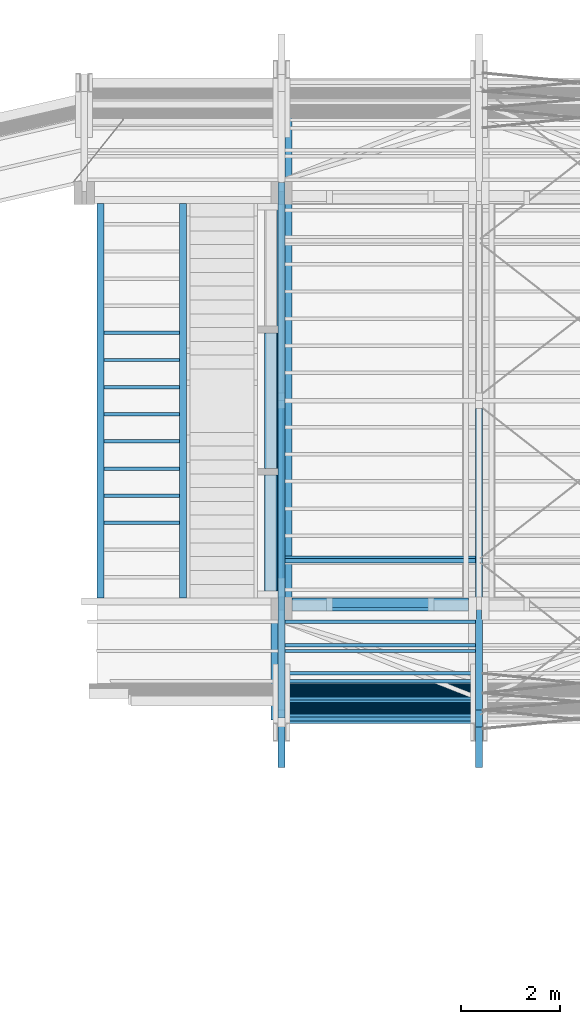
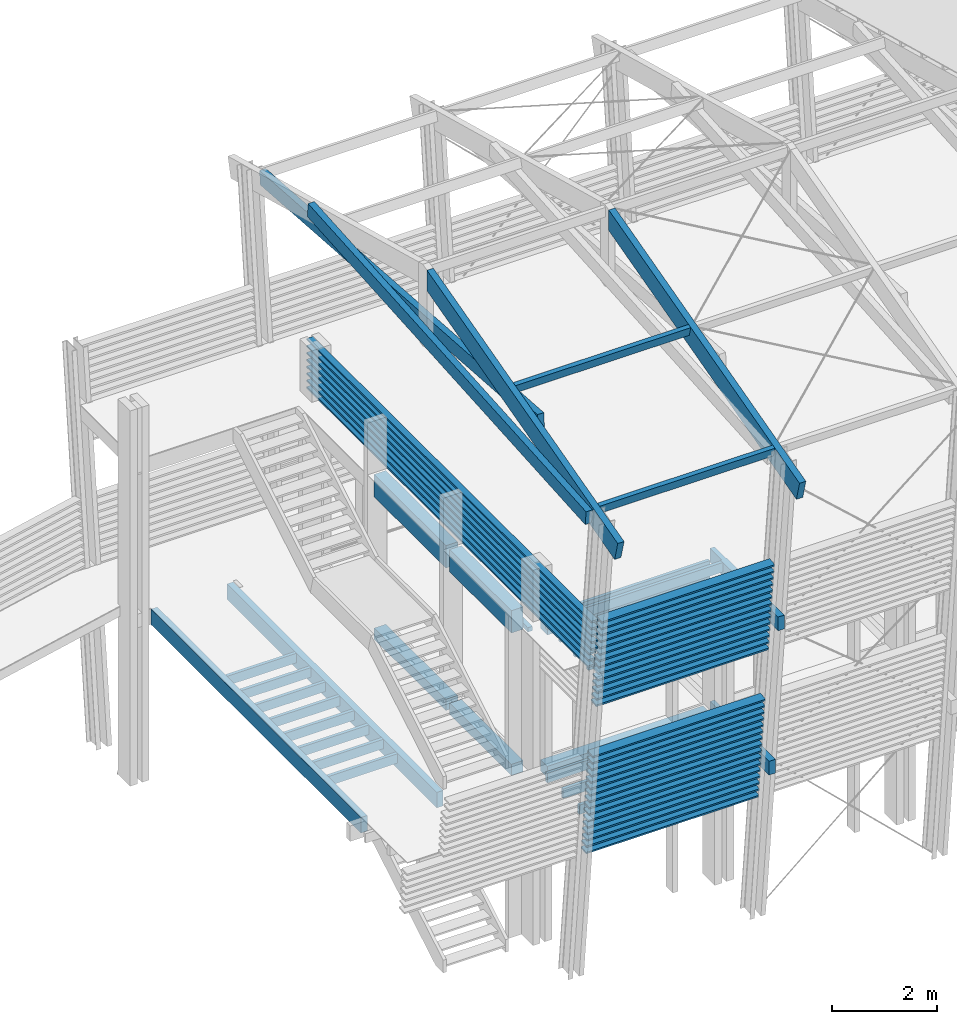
# One storey, part 5 of 48: 71 beams.
"""IFC2X3 building model written with IfcOpenShell, lengths in metres."""

from ifc_helpers import new_model, si_unit, direction, frame, origin_with_axes, place, context, subcontext, project, spatial, faceted_brep, material, element, save


model = new_model("IFC2X3")

# Units and contexts
model_context = context("Model", 3, precision=1e-06, world=origin_with_axes(), true_north=direction((0.0, 1.0, 0.0)))
body_context = subcontext(model_context, "Body", "Model", "MODEL_VIEW")
ifc_project = project(units=[si_unit("LENGTHUNIT", "METRE"), si_unit("AREAUNIT", "SQUARE_METRE"), si_unit("VOLUMEUNIT", "CUBIC_METRE"), si_unit("PLANEANGLEUNIT", "RADIAN")], contexts=[model_context])

# Site, building, storey
site_placement = place(None, origin_with_axes())
site = spatial("IfcSite", under=ifc_project, at=site_placement, CompositionType="ELEMENT")
building_placement = place(site_placement, origin_with_axes())
building = spatial("IfcBuilding", under=site, at=building_placement, Name="Building 1", CompositionType="ELEMENT")
storey_placement = place(building_placement, origin_with_axes())
storey = spatial("IfcBuildingStorey", under=building, at=storey_placement, Name="Storey 1", CompositionType="ELEMENT", Elevation=0.0)

# Beams
ifc_material_1 = material(Name="GL28h")
beam_1_placement = place(storey_placement, frame((21.8897437, -191.6830698, 4.139), z_axis=(0.0, 0.0, 1.0), x_axis=(1.0, 0.0, 0.0)))
element("IfcBeam", 1, at=beam_1_placement, inside=storey, material=ifc_material_1, Name="Solive", context=body_context, shape_type="Brep", body=[
    faceted_brep([(1.53, 0.035, 0.11), (1.53, 0.035, -0.11), (0.0, 0.035, -0.11), (0.0, 0.035, 0.11), (1.53, -0.035, -0.11), (0.0, -0.035, -0.11), (1.53, -0.035, 0.11), (0.0, -0.035, 0.11)], [[[0, 1, 2, 3]], [[1, 4, 5, 2]], [[4, 6, 7, 5]], [[6, 0, 3, 7]], [[1, 0, 6, 4]], [[7, 3, 2, 5]]]),
])
ifc_material_2 = material(Name="Moabi")
beam_2_placement = place(storey_placement, frame((25.4897441, -184.7864885, 8.022), z_axis=(1.0, 0.0, 0.0), x_axis=(0.0, -1.0, 0.0)))
element("IfcBeam", 2, at=beam_2_placement, inside=storey, material=ifc_material_2, Name="garde corp", context=body_context, shape_type="Brep", body=[
    faceted_brep([(10.7403249, -0.02, 0.07), (10.7403249, 0.02, 0.07), (0.0, 0.02, 0.07), (0.0, -0.02, 0.07), (10.7403249, 0.02, -0.07), (0.0, 0.02, -0.07), (10.7403249, -0.02, -0.07), (0.0, -0.02, -0.07)], [[[0, 1, 2, 3]], [[1, 4, 5, 2]], [[4, 6, 7, 5]], [[6, 0, 3, 7]], [[1, 0, 6, 4]], [[7, 3, 2, 5]]]),
])
beam_3_placement = place(storey_placement, frame((25.5597437, -193.6846515, 4.139), z_axis=(0.0, 0.0, 1.0), x_axis=(1.0, 0.0, 0.0)))
element("IfcBeam", 3, at=beam_3_placement, inside=storey, material=ifc_material_1, Name="Solive", context=body_context, shape_type="Brep", body=[
    faceted_brep([(3.86, 0.035, 0.11), (3.86, 0.035, -0.11), (0.0, 0.035, -0.11), (0.0, 0.035, 0.11), (3.86, -0.035, -0.11), (0.0, -0.035, -0.11), (3.86, -0.035, 0.11), (0.0, -0.035, 0.11)], [[[0, 1, 2, 3]], [[1, 4, 5, 2]], [[4, 6, 7, 5]], [[6, 0, 3, 7]], [[1, 0, 6, 4]], [[7, 3, 2, 5]]]),
])
beam_4_placement = place(storey_placement, frame((25.4897441, -184.7864885, 8.182), z_axis=(1.0, 0.0, 0.0), x_axis=(0.0, -1.0, 0.0)))
element("IfcBeam", 4, at=beam_4_placement, inside=storey, material=ifc_material_2, Name="garde corp", context=body_context, shape_type="Brep", body=[
    faceted_brep([(10.7590864, -0.02, 0.07), (10.7590864, 0.02, 0.07), (0.0, 0.02, 0.07), (0.0, -0.02, 0.07), (10.7590864, 0.02, -0.07), (0.0, 0.02, -0.07), (10.7590864, -0.02, -0.07), (0.0, -0.02, -0.07)], [[[0, 1, 2, 3]], [[1, 4, 5, 2]], [[4, 6, 7, 5]], [[6, 0, 3, 7]], [[1, 0, 6, 4]], [[7, 3, 2, 5]]]),
])
beam_5_placement = place(storey_placement, frame((25.2697437, -190.7180698, 4.085), z_axis=(0.0, 0.0, 1.0), x_axis=(0.0, -1.0, 0.0)))
element("IfcBeam", 5, at=beam_5_placement, inside=storey, material=ifc_material_1, Name="Buton", context=body_context, shape_type="Brep", body=[
    faceted_brep([(2.3515817, -0.13, -0.13), (2.3515817, 0.13, -0.13), (2.3515817, 0.13, 0.13), (2.3515817, -0.13, 0.13), (0.0, 0.13, -0.13), (0.0, 0.13, 0.13), (0.0, -0.13, 0.13), (0.0, -0.13, -0.13)], [[[0, 1, 2, 3]], [[4, 5, 2, 1]], [[5, 6, 3, 2]], [[6, 7, 0, 3]], [[7, 4, 1, 0]], [[5, 4, 7, 6]]]),
])
for number, where, z_axis, x_axis, name in (
    (6, (29.3927441, -195.4954586, 7.5554733), (0.0, 0.9945219, 0.1045285), (-1.0, 0.0, 0.0), "garde corp"),
    (7, (29.3927437, -195.5456322, 8.0328439), (0.0, 0.9945219, 0.1045285), (-1.0, 0.0, 0.0), "garde corp"),
):
    element("IfcBeam", number, at=place(storey_placement, frame(where, z_axis=z_axis, x_axis=x_axis)), inside=storey, material=ifc_material_2, Name=name, context=body_context, shape_type="Brep", body=[
        faceted_brep([(3.806, 0.02, -0.1), (3.806, -0.02, -0.1), (0.0, -0.02, -0.1), (0.0, 0.02, -0.1), (3.806, -0.02, 0.1), (0.0, -0.02, 0.1), (3.806, 0.02, 0.1), (0.0, 0.02, 0.1)], [[[0, 1, 2, 3]], [[1, 4, 5, 2]], [[4, 6, 7, 5]], [[6, 0, 3, 7]], [[1, 0, 6, 4]], [[7, 3, 2, 5]]]),
    ])
beam_6_placement = place(storey_placement, frame((25.6997437, -193.4346515, 7.64), z_axis=(0.0, 0.0, 1.0), x_axis=(1.0, 0.0, 0.0)))
element("IfcBeam", 8, at=beam_6_placement, inside=storey, material=ifc_material_1, Name="Rive", context=body_context, shape_type="Brep", body=[
    faceted_brep([(0.0, -0.035, -0.11), (0.0, -0.035, 0.11), (0.0, 0.035, 0.11), (0.0, 0.035, -0.11), (3.58, 0.035, -0.11), (3.58, -0.035, -0.11), (3.58, -0.035, 0.11), (3.58, 0.035, 0.11)], [[[0, 1, 2, 3]], [[0, 3, 4, 5]], [[1, 0, 5, 6]], [[5, 4, 7, 6]], [[3, 2, 7, 4]], [[2, 1, 6, 7]]]),
])
beam_7_placement = place(storey_placement, frame((25.4897441, -184.7864885, 8.982), z_axis=(1.0, 0.0, 0.0), x_axis=(0.0, -1.0, 0.0)))
element("IfcBeam", 9, at=beam_7_placement, inside=storey, material=ifc_material_2, Name="garde corp", context=body_context, shape_type="Brep", body=[
    faceted_brep([(10.8515661, -0.02, 0.07), (10.8515661, 0.02, 0.07), (0.0, 0.02, 0.07), (0.0, -0.02, 0.07), (10.8515661, 0.02, -0.07), (0.0, 0.02, -0.07), (10.8515661, -0.02, -0.07), (0.0, -0.02, -0.07)], [[[0, 1, 2, 3]], [[1, 4, 5, 2]], [[4, 6, 7, 5]], [[6, 0, 3, 7]], [[1, 0, 6, 4]], [[7, 3, 2, 5]]]),
])
beam_8_placement = place(storey_placement, frame((29.3927441, -195.4620095, 7.2372263), z_axis=(0.0, 0.9945219, 0.1045285), x_axis=(-1.0, 0.0, 0.0)))
element("IfcBeam", 10, at=beam_8_placement, inside=storey, material=ifc_material_2, Name="garde corp", context=body_context, shape_type="Brep", body=[
    faceted_brep([(3.806, 0.02, -0.1), (3.806, -0.02, -0.1), (0.0, -0.02, -0.1), (0.0, 0.02, -0.1), (3.806, -0.02, 0.1), (0.0, -0.02, 0.1), (3.806, 0.02, 0.1), (0.0, 0.02, 0.1)], [[[0, 1, 2, 3]], [[1, 4, 5, 2]], [[4, 6, 7, 5]], [[6, 0, 3, 7]], [[1, 0, 6, 4]], [[7, 3, 2, 5]]]),
])
beam_9_placement = place(storey_placement, frame((29.3927439, -195.1442429, 4.2138798), z_axis=(0.0, 0.9945219, 0.1045285), x_axis=(-1.0, 0.0, 0.0)))
element("IfcBeam", 11, at=beam_9_placement, inside=storey, material=ifc_material_2, Name="garde corp", context=body_context, shape_type="Brep", body=[
    faceted_brep([(3.8048051, 0.02, -0.1), (3.8048051, -0.02, -0.1), (0.0, -0.02, -0.1), (0.0, 0.02, -0.1), (3.8048051, -0.02, 0.1), (0.0, -0.02, 0.1), (3.8048051, 0.02, 0.1), (0.0, 0.02, 0.1)], [[[0, 1, 2, 3]], [[1, 4, 5, 2]], [[4, 6, 7, 5]], [[6, 0, 3, 7]], [[1, 0, 6, 4]], [[7, 3, 2, 5]]]),
])
for number, where, z_axis, x_axis, name in (
    (12, (29.3927441, -195.5121831, 7.7145968), (0.0, 0.9945219, 0.1045285), (-1.0, 0.0, 0.0), "garde corp"),
    (13, (29.3927437, -195.6125305, 8.6693379), (0.0, 0.9945219, 0.1045285), (-1.0, 0.0, 0.0), "garde corp"),
    (14, (29.3927441, -195.4452849, 7.0781028), (0.0, 0.9945219, 0.1045285), (-1.0, 0.0, 0.0), "garde corp"),
    (15, (29.3927441, -195.5790813, 8.3510909), (0.0, 0.9945219, 0.1045285), (-1.0, 0.0, 0.0), "garde corp"),
):
    element("IfcBeam", number, at=place(storey_placement, frame(where, z_axis=z_axis, x_axis=x_axis)), inside=storey, material=ifc_material_2, Name=name, context=body_context, shape_type="Brep", body=[
        faceted_brep([(3.806, 0.02, -0.1), (3.806, -0.02, -0.1), (0.0, -0.02, -0.1), (0.0, 0.02, -0.1), (3.806, -0.02, 0.1), (0.0, -0.02, 0.1), (3.806, 0.02, 0.1), (0.0, 0.02, 0.1)], [[[0, 1, 2, 3]], [[1, 4, 5, 2]], [[4, 6, 7, 5]], [[6, 0, 3, 7]], [[1, 0, 6, 4]], [[7, 3, 2, 5]]]),
    ])
for number, where, z_axis, x_axis, name in (
    (16, (29.3927439, -195.2613148, 5.3277443), (0.0, 0.9945219, 0.1045285), (-1.0, 0.0, 0.0), "garde corp"),
    (17, (29.3927439, -195.2445903, 5.1686208), (0.0, 0.9945219, 0.1045285), (-1.0, 0.0, 0.0), "garde corp"),
):
    element("IfcBeam", number, at=place(storey_placement, frame(where, z_axis=z_axis, x_axis=x_axis)), inside=storey, material=ifc_material_2, Name=name, context=body_context, shape_type="Brep", body=[
        faceted_brep([(3.8048055, 0.02, -0.1), (3.8048055, -0.02, -0.1), (0.0, -0.02, -0.1), (0.0, 0.02, -0.1), (3.8048055, -0.02, 0.1), (0.0, -0.02, 0.1), (3.8048055, 0.02, 0.1), (0.0, 0.02, 0.1)], [[[0, 1, 2, 3]], [[1, 4, 5, 2]], [[4, 6, 7, 5]], [[6, 0, 3, 7]], [[1, 0, 6, 4]], [[7, 3, 2, 5]]]),
    ])
beam_10_placement = place(storey_placement, frame((29.3927441, -195.5958059, 8.5102144), z_axis=(0.0, 0.9945219, 0.1045285), x_axis=(-1.0, 0.0, 0.0)))
element("IfcBeam", 18, at=beam_10_placement, inside=storey, material=ifc_material_2, Name="garde corp", context=body_context, shape_type="Brep", body=[
    faceted_brep([(3.806, 0.02, -0.1), (3.806, -0.02, -0.1), (0.0, -0.02, -0.1), (0.0, 0.02, -0.1), (3.806, -0.02, 0.1), (0.0, -0.02, 0.1), (3.806, 0.02, 0.1), (0.0, 0.02, 0.1)], [[[0, 1, 2, 3]], [[1, 4, 5, 2]], [[4, 6, 7, 5]], [[6, 0, 3, 7]], [[1, 0, 6, 4]], [[7, 3, 2, 5]]]),
])
beam_11_placement = place(storey_placement, frame((29.3927439, -195.2780394, 5.4868678), z_axis=(0.0, 0.9945219, 0.1045285), x_axis=(-1.0, 0.0, 0.0)))
element("IfcBeam", 19, at=beam_11_placement, inside=storey, material=ifc_material_2, Name="garde corp", context=body_context, shape_type="Brep", body=[
    faceted_brep([(3.8047069, 0.02, -0.1), (3.8047069, -0.02, -0.1), (0.0, -0.02, -0.1), (0.0, 0.02, -0.1), (3.8047069, -0.02, 0.1), (0.0, -0.02, 0.1), (3.8047071, 0.02, 0.1), (0.0, 0.02, 0.1)], [[[0, 1, 2, 3]], [[1, 4, 5, 2]], [[4, 6, 7, 5]], [[6, 0, 3, 7]], [[1, 0, 6, 4]], [[7, 3, 2, 5]]]),
])
beam_12_placement = place(storey_placement, frame((29.3927439, -195.177692, 4.5321268), z_axis=(0.0, 0.9945219, 0.1045285), x_axis=(-1.0, 0.0, 0.0)))
element("IfcBeam", 20, at=beam_12_placement, inside=storey, material=ifc_material_2, Name="garde corp", context=body_context, shape_type="Brep", body=[
    faceted_brep([(3.8047069, 0.02, -0.1), (3.8047071, -0.02, -0.1), (0.0, -0.02, -0.1), (0.0, 0.02, -0.1), (3.8047069, -0.02, 0.1), (0.0, -0.02, 0.1), (3.8047071, 0.02, 0.1), (0.0, 0.02, 0.1)], [[[0, 1, 2, 3]], [[1, 4, 5, 2]], [[4, 6, 7, 5]], [[6, 0, 3, 7]], [[1, 0, 6, 4]], [[7, 3, 2, 5]]]),
])
beam_13_placement = place(storey_placement, frame((29.3927439, -195.1609675, 4.3730033), z_axis=(0.0, 0.9945219, 0.1045285), x_axis=(-1.0, 0.0, 0.0)))
element("IfcBeam", 21, at=beam_13_placement, inside=storey, material=ifc_material_2, Name="garde corp", context=body_context, shape_type="Brep", body=[
    faceted_brep([(3.8048051, 0.02, -0.1), (3.8048051, -0.02, -0.1), (0.0, -0.02, -0.1), (0.0, 0.02, -0.1), (3.8048051, -0.02, 0.1), (0.0, -0.02, 0.1), (3.8048051, 0.02, 0.1), (0.0, 0.02, 0.1)], [[[0, 1, 2, 3]], [[1, 4, 5, 2]], [[4, 6, 7, 5]], [[6, 0, 3, 7]], [[1, 0, 6, 4]], [[7, 3, 2, 5]]]),
])
beam_14_placement = place(storey_placement, frame((29.3927441, -195.5289077, 7.8737203), z_axis=(0.0, 0.9945219, 0.1045285), x_axis=(-1.0, 0.0, 0.0)))
element("IfcBeam", 22, at=beam_14_placement, inside=storey, material=ifc_material_2, Name="garde corp", context=body_context, shape_type="Brep", body=[
    faceted_brep([(3.806, 0.02, -0.1), (3.806, -0.02, -0.1), (0.0, -0.02, -0.1), (0.0, 0.02, -0.1), (3.806, -0.02, 0.1), (0.0, -0.02, 0.1), (3.806, 0.02, 0.1), (0.0, 0.02, 0.1)], [[[0, 1, 2, 3]], [[1, 4, 5, 2]], [[4, 6, 7, 5]], [[6, 0, 3, 7]], [[1, 0, 6, 4]], [[7, 3, 2, 5]]]),
])
beam_15_placement = place(storey_placement, frame((29.3927439, -195.1944166, 4.6912503), z_axis=(0.0, 0.9945219, 0.1045285), x_axis=(-1.0, 0.0, 0.0)))
element("IfcBeam", 23, at=beam_15_placement, inside=storey, material=ifc_material_2, Name="garde corp", context=body_context, shape_type="Brep", body=[
    faceted_brep([(3.8047069, 0.02, -0.1), (3.8047071, -0.02, -0.1), (0.0, -0.02, -0.1), (0.0, 0.02, -0.1), (3.8047071, -0.02, 0.1), (0.0, -0.02, 0.1), (3.8047071, 0.02, 0.1), (0.0, 0.02, 0.1)], [[[0, 1, 2, 3]], [[1, 4, 5, 2]], [[4, 6, 7, 5]], [[6, 0, 3, 7]], [[1, 0, 6, 4]], [[7, 3, 2, 5]]]),
])
beam_16_placement = place(storey_placement, frame((29.3927439, -195.2947639, 5.6459913), z_axis=(0.0, 0.9945219, 0.1045285), x_axis=(-1.0, 0.0, 0.0)))
element("IfcBeam", 24, at=beam_16_placement, inside=storey, material=ifc_material_2, Name="garde corp", context=body_context, shape_type="Brep", body=[
    faceted_brep([(3.8048055, 0.02, -0.1), (3.8048055, -0.02, -0.1), (0.0, -0.02, -0.1), (0.0, 0.02, -0.1), (3.8048055, -0.02, 0.1), (0.0, -0.02, 0.1), (3.8048055, 0.02, 0.1), (0.0, 0.02, 0.1)], [[[0, 1, 2, 3]], [[1, 4, 5, 2]], [[4, 6, 7, 5]], [[6, 0, 3, 7]], [[1, 0, 6, 4]], [[7, 3, 2, 5]]]),
])
beam_17_placement = place(storey_placement, frame((29.3927439, -195.0773447, 3.5773858), z_axis=(0.0, 0.9945219, 0.1045285), x_axis=(-1.0, 0.0, 0.0)))
element("IfcBeam", 25, at=beam_17_placement, inside=storey, material=ifc_material_2, Name="garde corp", context=body_context, shape_type="Brep", body=[
    faceted_brep([(3.8047071, 0.02, -0.1), (3.8047071, -0.02, -0.1), (0.0, -0.02, -0.1), (0.0, 0.02, -0.1), (3.8047071, -0.02, 0.1), (0.0, -0.02, 0.1), (3.8047071, 0.02, 0.1), (0.0, 0.02, 0.1)], [[[0, 1, 2, 3]], [[1, 4, 5, 2]], [[4, 6, 7, 5]], [[6, 0, 3, 7]], [[1, 0, 6, 4]], [[7, 3, 2, 5]]]),
])
beam_18_placement = place(storey_placement, frame((29.3927439, -195.0606202, 3.4182623), z_axis=(0.0, 0.9945219, 0.1045285), x_axis=(-1.0, 0.0, 0.0)))
element("IfcBeam", 26, at=beam_18_placement, inside=storey, material=ifc_material_2, Name="garde corp", context=body_context, shape_type="Brep", body=[
    faceted_brep([(3.8047069, 0.02, -0.1), (3.8047069, -0.02, -0.1), (0.0, -0.02, -0.1), (0.0, 0.02, -0.1), (3.8047069, -0.02, 0.1), (0.0, -0.02, 0.1), (3.8047071, 0.02, 0.1), (0.0, 0.02, 0.1)], [[[0, 1, 2, 3]], [[1, 4, 5, 2]], [[4, 6, 7, 5]], [[6, 0, 3, 7]], [[1, 0, 6, 4]], [[7, 3, 2, 5]]]),
])
for number, where, z_axis, x_axis, name in (
    (27, (29.3927441, -195.5623568, 8.1919674), (0.0, 0.9945219, 0.1045285), (-1.0, 0.0, 0.0), "garde corp"),
    (28, (29.3927441, -195.478734, 7.3963498), (0.0, 0.9945219, 0.1045285), (-1.0, 0.0, 0.0), "garde corp"),
    (29, (29.3927441, -195.629255, 8.8284614), (0.0, 0.9945219, 0.1045285), (-1.0, 0.0, 0.0), "garde corp"),
):
    element("IfcBeam", number, at=place(storey_placement, frame(where, z_axis=z_axis, x_axis=x_axis)), inside=storey, material=ifc_material_2, Name=name, context=body_context, shape_type="Brep", body=[
        faceted_brep([(3.806, 0.02, -0.1), (3.806, -0.02, -0.1), (0.0, -0.02, -0.1), (0.0, 0.02, -0.1), (3.806, -0.02, 0.1), (0.0, -0.02, 0.1), (3.806, 0.02, 0.1), (0.0, 0.02, 0.1)], [[[0, 1, 2, 3]], [[1, 4, 5, 2]], [[4, 6, 7, 5]], [[6, 0, 3, 7]], [[1, 0, 6, 4]], [[7, 3, 2, 5]]]),
    ])
beam_19_placement = place(storey_placement, frame((29.3927439, -195.2111412, 4.8503738), z_axis=(0.0, 0.9945219, 0.1045285), x_axis=(-1.0, 0.0, 0.0)))
element("IfcBeam", 30, at=beam_19_placement, inside=storey, material=ifc_material_2, Name="garde corp", context=body_context, shape_type="Brep", body=[
    faceted_brep([(3.8048055, 0.02, -0.1), (3.8048055, -0.02, -0.1), (0.0, -0.02, -0.1), (0.0, 0.02, -0.1), (3.8048055, -0.02, 0.1), (0.0, -0.02, 0.1), (3.8048055, 0.02, 0.1), (0.0, 0.02, 0.1)], [[[0, 1, 2, 3]], [[1, 4, 5, 2]], [[4, 6, 7, 5]], [[6, 0, 3, 7]], [[1, 0, 6, 4]], [[7, 3, 2, 5]]]),
])
beam_20_placement = place(storey_placement, frame((29.3927437, -195.6459796, 8.9875849), z_axis=(0.0, 0.9945219, 0.1045285), x_axis=(-1.0, 0.0, 0.0)))
element("IfcBeam", 31, at=beam_20_placement, inside=storey, material=ifc_material_2, Name="garde corp", context=body_context, shape_type="Brep", body=[
    faceted_brep([(3.806, 0.02, -0.1), (3.806, -0.02, -0.1), (0.0, -0.02, -0.1), (0.0, 0.02, -0.1), (3.806, -0.02, 0.1), (0.0, -0.02, 0.1), (3.806, 0.02, 0.1), (0.0, 0.02, 0.1)], [[[0, 1, 2, 3]], [[1, 4, 5, 2]], [[4, 6, 7, 5]], [[6, 0, 3, 7]], [[1, 0, 6, 4]], [[7, 3, 2, 5]]]),
])
beam_21_placement = place(storey_placement, frame((29.3927439, -195.0438956, 3.2591388), z_axis=(0.0, 0.9945219, 0.1045285), x_axis=(-1.0, 0.0, 0.0)))
element("IfcBeam", 32, at=beam_21_placement, inside=storey, material=ifc_material_2, Name="garde corp", context=body_context, shape_type="Brep", body=[
    faceted_brep([(3.8048051, 0.02, -0.1), (3.8048051, -0.02, -0.1), (0.0, -0.02, -0.1), (0.0, 0.02, -0.1), (3.8048051, -0.02, 0.1), (0.0, -0.02, 0.1), (3.8048051, 0.02, 0.1), (0.0, 0.02, 0.1)], [[[0, 1, 2, 3]], [[1, 4, 5, 2]], [[4, 6, 7, 5]], [[6, 0, 3, 7]], [[1, 0, 6, 4]], [[7, 3, 2, 5]]]),
])
beam_22_placement = place(storey_placement, frame((29.3927441, -195.4285604, 6.9189793), z_axis=(0.0, 0.9945219, 0.1045285), x_axis=(-1.0, 0.0, 0.0)))
element("IfcBeam", 33, at=beam_22_placement, inside=storey, material=ifc_material_2, Name="garde corp", context=body_context, shape_type="Brep", body=[
    faceted_brep([(3.806, 0.02, -0.1), (3.806, -0.02, -0.1), (0.0, -0.02, -0.1), (0.0, 0.02, -0.1), (3.806, -0.02, 0.1), (0.0, -0.02, 0.1), (3.806, 0.02, 0.1), (0.0, 0.02, 0.1)], [[[0, 1, 2, 3]], [[1, 4, 5, 2]], [[4, 6, 7, 5]], [[6, 0, 3, 7]], [[1, 0, 6, 4]], [[7, 3, 2, 5]]]),
])
beam_23_placement = place(storey_placement, frame((29.3927439, -195.1275184, 4.0547563), z_axis=(0.0, 0.9945219, 0.1045285), x_axis=(-1.0, 0.0, 0.0)))
element("IfcBeam", 34, at=beam_23_placement, inside=storey, material=ifc_material_2, Name="garde corp", context=body_context, shape_type="Brep", body=[
    faceted_brep([(3.8048051, 0.02, -0.1), (3.8048051, -0.02, -0.1), (0.0, -0.02, -0.1), (0.0, 0.02, -0.1), (3.8048051, -0.02, 0.1), (0.0, -0.02, 0.1), (3.8048051, 0.02, 0.1), (0.0, 0.02, 0.1)], [[[0, 1, 2, 3]], [[1, 4, 5, 2]], [[4, 6, 7, 5]], [[6, 0, 3, 7]], [[1, 0, 6, 4]], [[7, 3, 2, 5]]]),
])
for number, where, z_axis, x_axis, name in (
    (35, (29.3927439, -195.1107938, 3.8956328), (0.0, 0.9945219, 0.1045285), (-1.0, 0.0, 0.0), "garde corp"),
    (36, (29.3927439, -195.0940693, 3.7365093), (0.0, 0.9945219, 0.1045285), (-1.0, 0.0, 0.0), "garde corp"),
):
    element("IfcBeam", number, at=place(storey_placement, frame(where, z_axis=z_axis, x_axis=x_axis)), inside=storey, material=ifc_material_2, Name=name, context=body_context, shape_type="Brep", body=[
        faceted_brep([(3.8047069, 0.02, -0.1), (3.8047071, -0.02, -0.1), (0.0, -0.02, -0.1), (0.0, 0.02, -0.1), (3.8047071, -0.02, 0.1), (0.0, -0.02, 0.1), (3.8047071, 0.02, 0.1), (0.0, 0.02, 0.1)], [[[0, 1, 2, 3]], [[1, 4, 5, 2]], [[4, 6, 7, 5]], [[6, 0, 3, 7]], [[1, 0, 6, 4]], [[7, 3, 2, 5]]]),
    ])
beam_24_placement = place(storey_placement, frame((29.3927439, -195.2278657, 5.0094973), z_axis=(0.0, 0.9945219, 0.1045285), x_axis=(-1.0, 0.0, 0.0)))
element("IfcBeam", 37, at=beam_24_placement, inside=storey, material=ifc_material_2, Name="garde corp", context=body_context, shape_type="Brep", body=[
    faceted_brep([(3.8047069, 0.02, -0.1), (3.8047071, -0.02, -0.1), (0.0, -0.02, -0.1), (0.0, 0.02, -0.1), (3.8047069, -0.02, 0.1), (0.0, -0.02, 0.1), (3.8047071, 0.02, 0.1), (0.0, 0.02, 0.1)], [[[0, 1, 2, 3]], [[1, 4, 5, 2]], [[4, 6, 7, 5]], [[6, 0, 3, 7]], [[1, 0, 6, 4]], [[7, 3, 2, 5]]]),
])
beam_25_placement = place(storey_placement, frame((25.5598389, -194.7346515, 7.699), z_axis=(0.0, 0.0, 1.0), x_axis=(1.0, 0.0, 0.0)))
element("IfcBeam", 38, at=beam_25_placement, inside=storey, material=ifc_material_1, Name="Solive", context=body_context, shape_type="Brep", body=[
    faceted_brep([(3.8598092, 0.035, 0.11), (3.8598092, 0.035, -0.11), (0.0, 0.035, -0.11), (0.0, 0.035, 0.11), (3.8598092, -0.035, -0.11), (0.0, -0.035, -0.11), (3.8598092, -0.035, 0.11), (0.0, -0.035, 0.11)], [[[0, 1, 2, 3]], [[1, 4, 5, 2]], [[4, 6, 7, 5]], [[6, 0, 3, 7]], [[1, 0, 6, 4]], [[7, 3, 2, 5]]]),
])
beam_26_placement = place(storey_placement, frame((25.5597437, -193.6846515, 7.699), z_axis=(0.0, 0.0, 1.0), x_axis=(1.0, 0.0, 0.0)))
element("IfcBeam", 39, at=beam_26_placement, inside=storey, material=ifc_material_1, Name="Solive", context=body_context, shape_type="Brep", body=[
    faceted_brep([(3.8599996, -0.035, -0.11), (3.8599996, 0.035, -0.11), (3.8599996, 0.035, 0.11), (3.8599996, -0.035, 0.11), (0.0, 0.035, -0.11), (0.0, 0.035, 0.11), (0.0, -0.035, -0.11), (0.0, -0.035, 0.11)], [[[0, 1, 2, 3]], [[2, 1, 4, 5]], [[1, 0, 6, 4]], [[0, 3, 7, 6]], [[3, 2, 5, 7]], [[7, 5, 4, 6]]]),
])
beam_27_placement = place(storey_placement, frame((25.5598393, -195.2446515, 7.699), z_axis=(0.0, 0.0, 1.0), x_axis=(1.0, 0.0, 0.0)))
element("IfcBeam", 40, at=beam_27_placement, inside=storey, material=ifc_material_1, Name="Solive", context=body_context, shape_type="Brep", body=[
    faceted_brep([(3.8598092, 0.035, 0.11), (3.8598092, 0.035, -0.11), (0.0, 0.035, -0.11), (0.0, 0.035, 0.11), (3.8598084, -0.035, -0.11), (0.0, -0.035, -0.11), (3.8598084, -0.035, 0.11), (0.0, -0.035, 0.11)], [[[0, 1, 2, 3]], [[1, 4, 5, 2]], [[4, 6, 7, 5]], [[6, 0, 3, 7]], [[1, 0, 6, 4]], [[7, 3, 2, 5]]]),
])
beam_28_placement = place(storey_placement, frame((25.5598393, -194.1646515, 7.699), z_axis=(0.0, 0.0, 1.0), x_axis=(1.0, 0.0, 0.0)))
element("IfcBeam", 41, at=beam_28_placement, inside=storey, material=ifc_material_1, Name="Solive", context=body_context, shape_type="Brep", body=[
    faceted_brep([(3.8598092, 0.035, 0.11), (3.8598092, 0.035, -0.11), (0.0, 0.035, -0.11), (0.0, 0.035, 0.11), (3.8598092, -0.035, -0.11), (0.0, -0.035, -0.11), (3.8598092, -0.035, 0.11), (0.0, -0.035, 0.11)], [[[0, 1, 2, 3]], [[1, 4, 5, 2]], [[4, 6, 7, 5]], [[6, 0, 3, 7]], [[1, 0, 6, 4]], [[7, 3, 2, 5]]]),
])
beam_29_placement = place(storey_placement, frame((25.4897441, -184.7864885, 8.502), z_axis=(1.0, 0.0, 0.0), x_axis=(0.0, -1.0, 0.0)))
element("IfcBeam", 42, at=beam_29_placement, inside=storey, material=ifc_material_2, Name="garde corp", context=body_context, shape_type="Brep", body=[
    faceted_brep([(10.8515661, -0.02, 0.07), (10.8515661, 0.02, 0.07), (0.0, 0.02, 0.07), (0.0, -0.02, 0.07), (10.8515661, 0.02, -0.07), (0.0, 0.02, -0.07), (10.8515661, -0.02, -0.07), (0.0, -0.02, -0.07)], [[[0, 1, 2, 3]], [[1, 4, 5, 2]], [[4, 6, 7, 5]], [[6, 0, 3, 7]], [[1, 0, 6, 4]], [[7, 3, 2, 5]]]),
])
beam_30_placement = place(storey_placement, frame((25.2697437, -190.7180698, 7.53), z_axis=(0.0, 0.0, 1.0), x_axis=(0.0, -1.0, 0.0)))
element("IfcBeam", 43, at=beam_30_placement, inside=storey, material=ifc_material_1, Name="Buton", context=body_context, shape_type="Brep", body=[
    faceted_brep([(2.3515817, -0.13, 0.26), (2.3515817, -0.13, -0.26), (2.3515817, 0.13, -0.26), (2.3515817, 0.13, 0.26), (0.0, 0.13, -0.26), (0.0, 0.13, 0.26), (0.0, -0.13, 0.26), (0.0, -0.13, -0.26)], [[[0, 1, 2, 3]], [[4, 5, 3, 2]], [[5, 6, 0, 3]], [[6, 7, 1, 0]], [[7, 4, 2, 1]], [[4, 7, 6, 5]]]),
])
beam_31_placement = place(storey_placement, frame((25.2697437, -187.8380698, 7.53), z_axis=(0.0, 0.0, 1.0), x_axis=(0.0, -1.0, 0.0)))
element("IfcBeam", 44, at=beam_31_placement, inside=storey, material=ifc_material_1, Name="Buton", context=body_context, shape_type="Brep", body=[
    faceted_brep([(2.74, -0.13, -0.26), (2.74, 0.13, -0.26), (2.74, 0.13, 0.26), (2.74, -0.13, 0.26), (0.0, 0.13, 0.26), (0.0, -0.13, 0.26), (0.0, 0.13, -0.26), (0.0, -0.13, -0.26)], [[[0, 1, 2, 3]], [[3, 2, 4, 5]], [[2, 1, 6, 4]], [[5, 4, 6, 7]], [[1, 0, 7, 6]], [[0, 3, 5, 7]]]),
])
for number, where, z_axis, x_axis in (
    (45, (25.5597433, -195.6333854, 11.5757268), (0.0, -0.258819, 0.9659258), (1.0, 0.0, 0.0)),
    (46, (25.5597433, -192.4247592, 12.4354756), (0.0, -0.258819, 0.9659258), (1.0, 0.0, 0.0)),
):
    element("IfcBeam", number, at=place(storey_placement, frame(where, z_axis=z_axis, x_axis=x_axis)), inside=storey, material=ifc_material_1, Name="Buton", context=body_context, shape_type="Brep", body=[
        faceted_brep([(3.8600004, -0.045, 0.11), (3.8600004, 0.045, 0.11), (0.0, 0.045, 0.11), (0.0, -0.045, 0.11), (3.8600004, 0.045, -0.11), (0.0, 0.045, -0.11), (3.8600004, -0.045, -0.11), (0.0, -0.045, -0.11)], [[[0, 1, 2, 3]], [[1, 4, 5, 2]], [[4, 6, 7, 5]], [[6, 0, 3, 7]], [[1, 0, 6, 4]], [[7, 3, 2, 5]]]),
    ])
beam_32_placement = place(storey_placement, frame((21.8897437, -187.8330698, 4.139), z_axis=(0.0, 0.0, 1.0), x_axis=(1.0, 0.0, 0.0)))
element("IfcBeam", 47, at=beam_32_placement, inside=storey, material=ifc_material_1, Name="Solive", context=body_context, shape_type="Brep", body=[
    faceted_brep([(1.53, 0.035, 0.11), (1.53, 0.035, -0.11), (0.0, 0.035, -0.11), (0.0, 0.035, 0.11), (1.53, -0.035, -0.11), (0.0, -0.035, -0.11), (1.53, -0.035, 0.11), (0.0, -0.035, 0.11)], [[[0, 1, 2, 3]], [[1, 4, 5, 2]], [[4, 6, 7, 5]], [[6, 0, 3, 7]], [[1, 0, 6, 4]], [[7, 3, 2, 5]]]),
])
for number, where, z_axis, x_axis in (
    (48, (25.5597437, -194.898689, 4.139), (0.0, 0.0, 1.0), (1.0, 0.0, 0.0)),
    (49, (25.5597437, -194.2816702, 4.139), (0.0, 0.0, 1.0), (1.0, 0.0, 0.0)),
):
    element("IfcBeam", number, at=place(storey_placement, frame(where, z_axis=z_axis, x_axis=x_axis)), inside=storey, material=ifc_material_1, Name="Solive", context=body_context, shape_type="Brep", body=[
        faceted_brep([(3.86, 0.035, 0.11), (3.86, 0.035, -0.11), (0.0, 0.035, -0.11), (0.0, 0.035, 0.11), (3.86, -0.035, -0.11), (0.0, -0.035, -0.11), (3.86, -0.035, 0.11), (0.0, -0.035, 0.11)], [[[0, 1, 2, 3]], [[1, 4, 5, 2]], [[4, 6, 7, 5]], [[6, 0, 3, 7]], [[1, 0, 6, 4]], [[7, 3, 2, 5]]]),
    ])
beam_33_placement = place(storey_placement, frame((25.4697437, -189.2065705, 7.4500014), z_axis=(0.0, -0.0299865, 0.9995503), x_axis=(0.0, -0.9995503, -0.0299865)))
element("IfcBeam", 50, at=beam_33_placement, inside=storey, material=ifc_material_1, Name="Sous-glace", context=body_context, shape_type="Brep", body=[
    faceted_brep([(0.0, -0.05, 0.05), (0.003, -0.05, -0.05), (4.006382, -0.05, -0.05), (4.003382, -0.05, 0.05), (4.003382, 0.05, 0.05), (0.0, 0.05, 0.05), (0.003, 0.05, -0.05), (4.006382, 0.05, -0.05)], [[[0, 1, 2, 3]], [[3, 4, 5, 0]], [[6, 5, 4, 7]], [[1, 6, 7, 2]], [[1, 0, 5, 6]], [[2, 7, 4, 3]]]),
])
beam_34_placement = place(storey_placement, frame((25.6297437, -182.7509358, 11.4619485), z_axis=(0.0, 0.070184, 0.9975341), x_axis=(0.0, -0.9975341, 0.070184)))
element("IfcBeam", 51, at=beam_34_placement, inside=storey, material=ifc_material_1, Name="Entrait", context=body_context, shape_type="Brep", body=[
    faceted_brep([(0.0, 0.07, 0.16), (0.0110373, 0.07, -0.16), (0.0110373, -0.07, -0.16), (0.0, -0.07, 0.16), (10.6243711, 0.07, -0.16), (10.6243711, -0.07, -0.16), (10.6243711, 0.07, 0.16), (10.6243711, -0.07, 0.16)], [[[0, 1, 2, 3]], [[2, 1, 4, 5]], [[1, 0, 6, 4]], [[5, 4, 6, 7]], [[3, 2, 5, 7]], [[0, 3, 7, 6]]]),
])
beam_35_placement = place(storey_placement, frame((21.8897437, -191.1330698, 4.139), z_axis=(0.0, 0.0, 1.0), x_axis=(1.0, 0.0, 0.0)))
element("IfcBeam", 52, at=beam_35_placement, inside=storey, material=ifc_material_1, Name="Solive", context=body_context, shape_type="Brep", body=[
    faceted_brep([(1.53, 0.035, 0.11), (1.53, 0.035, -0.11), (0.0, 0.035, -0.11), (0.0, 0.035, 0.11), (1.53, -0.035, -0.11), (0.0, -0.035, -0.11), (1.53, -0.035, 0.11), (0.0, -0.035, 0.11)], [[[0, 1, 2, 3]], [[1, 4, 5, 2]], [[4, 6, 7, 5]], [[6, 0, 3, 7]], [[1, 0, 6, 4]], [[7, 3, 2, 5]]]),
])
beam_36_placement = place(storey_placement, frame((29.4897437, -196.5806087, 11.197686), z_axis=(0.0, -0.258819, 0.9659258), x_axis=(0.0, 0.9659258, 0.258819)))
element("IfcBeam", 53, at=beam_36_placement, inside=storey, material=ifc_material_1, Name="Arbalétrier", context=body_context, shape_type="Brep", body=[
    faceted_brep([(7.4053414, 0.07, -0.23), (7.5285981, 0.07, 0.23), (7.5285981, -0.07, 0.23), (7.4053414, -0.07, -0.23), (0.0, 0.07, 0.23), (0.0, -0.07, 0.23), (0.0, 0.07, -0.23), (0.0, -0.07, -0.23)], [[[0, 1, 2, 3]], [[2, 1, 4, 5]], [[1, 0, 6, 4]], [[0, 3, 7, 6]], [[3, 2, 5, 7]], [[6, 7, 5, 4]]]),
])
beam_37_placement = place(storey_placement, frame((29.4897437, -193.1896515, 4.089), z_axis=(0.0, 0.0, 1.0), x_axis=(0.0, -1.0, 0.0)))
element("IfcBeam", 54, at=beam_37_placement, inside=storey, material=ifc_material_1, Name="Sommier Coursive", context=body_context, shape_type="Brep", body=[
    faceted_brep([(0.0, 0.05, 0.16), (0.44, 0.05, 0.16), (0.44, 0.05, -0.16), (0.0, 0.05, -0.16), (0.44, 0.07, 0.16), (0.44, 0.07, -0.16), (0.0, -0.05, 0.16), (0.44, -0.05, 0.16), (0.44, -0.07, 0.16), (2.2900003, -0.07, 0.16), (2.2900003, 0.07, 0.16), (0.0, -0.05, -0.16), (0.44, -0.05, -0.16), (0.44, -0.07, -0.16), (2.2900003, 0.07, -0.16), (2.2900003, -0.07, -0.16)], [[[0, 1, 2, 3]], [[1, 4, 5, 2]], [[4, 1, 0, 6, 7, 8, 9, 10]], [[0, 3, 11, 6]], [[11, 12, 7, 6]], [[12, 13, 8, 7]], [[2, 5, 14, 15, 13, 12, 11, 3]], [[8, 13, 15, 9]], [[5, 4, 10, 14]], [[10, 9, 15, 14]]]),
])
beam_38_placement = place(storey_placement, frame((25.4897437, -196.5806087, 11.197686), z_axis=(0.0, -0.258819, 0.9659258), x_axis=(0.0, 0.9659258, 0.258819)))
element("IfcBeam", 55, at=beam_38_placement, inside=storey, material=ifc_material_1, Name="Arbalétrier", context=body_context, shape_type="Brep", body=[
    faceted_brep([(7.4053414, 0.07, -0.23), (7.5285981, 0.07, 0.23), (7.5285981, -0.07, 0.23), (7.4053414, -0.07, -0.23), (0.0, 0.07, 0.23), (0.0, -0.07, 0.23), (0.0, 0.07, -0.23), (0.0, -0.07, -0.23)], [[[0, 1, 2, 3]], [[2, 1, 4, 5]], [[1, 0, 6, 4]], [[0, 3, 7, 6]], [[3, 2, 5, 7]], [[6, 7, 5, 4]]]),
])
beam_39_placement = place(storey_placement, frame((21.8197437, -185.2064881, 4.069), z_axis=(0.0, 0.0, 1.0), x_axis=(0.0, -1.0, 0.0)))
element("IfcBeam", 56, at=beam_39_placement, inside=storey, material=ifc_material_1, Name="Sommier", context=body_context, shape_type="Brep", body=[
    faceted_brep([(8.0031634, 0.07, 0.18), (8.0031634, 0.07, -0.18), (0.0, 0.07, -0.18), (0.0, 0.07, 0.18), (8.0031634, -0.07, -0.18), (0.0, -0.07, -0.18), (8.0031634, -0.07, 0.18), (0.0, -0.07, 0.18)], [[[0, 1, 2, 3]], [[1, 4, 5, 2]], [[4, 6, 7, 5]], [[6, 0, 3, 7]], [[1, 0, 6, 4]], [[7, 3, 2, 5]]]),
])
beam_40_placement = place(storey_placement, frame((29.4897437, -193.1896515, 7.649), z_axis=(0.0, 0.0, 1.0), x_axis=(0.0, -1.0, 0.0)))
element("IfcBeam", 57, at=beam_40_placement, inside=storey, material=ifc_material_1, Name="Sommier Coursive", context=body_context, shape_type="Brep", body=[
    faceted_brep([(0.0, -0.05, -0.16), (0.44, -0.05, -0.16), (0.44, -0.05, 0.16), (0.0, -0.05, 0.16), (0.44, -0.07, -0.16), (0.44, -0.07, 0.16), (0.0, 0.05, 0.16), (0.0, 0.05, -0.16), (2.6285375, -0.07, 0.16), (2.6285375, 0.07, 0.16), (0.44, 0.07, 0.16), (0.44, 0.05, 0.16), (0.44, 0.05, -0.16), (0.44, 0.07, -0.16), (2.6285375, -0.07, -0.16), (2.6285375, 0.07, -0.16)], [[[0, 1, 2, 3]], [[1, 4, 5, 2]], [[0, 3, 6, 7]], [[3, 2, 5, 8, 9, 10, 11, 6]], [[6, 11, 12, 7]], [[11, 10, 13, 12]], [[5, 4, 14, 8]], [[1, 0, 7, 12, 13, 15, 14, 4]], [[13, 10, 9, 15]], [[9, 8, 14, 15]]]),
])
beam_41_placement = place(storey_placement, frame((25.3497437, -195.6652037, 11.4619485), z_axis=(0.0, -0.070184, 0.9975341), x_axis=(0.0, 0.9975341, 0.070184)))
element("IfcBeam", 58, at=beam_41_placement, inside=storey, material=ifc_material_1, Name="Entrait", context=body_context, shape_type="Brep", body=[
    faceted_brep([(0.0, 0.07, 0.16), (0.0110373, 0.07, -0.16), (0.0110373, -0.07, -0.16), (0.0, -0.07, 0.16), (10.6243711, 0.07, -0.16), (10.6243711, -0.07, -0.16), (10.6243711, 0.07, 0.16), (10.6243711, -0.07, 0.16)], [[[0, 1, 2, 3]], [[2, 1, 4, 5]], [[1, 0, 6, 4]], [[5, 4, 6, 7]], [[3, 2, 5, 7]], [[0, 3, 7, 6]]]),
])
beam_42_placement = place(storey_placement, frame((25.2697437, -187.8380698, 4.085), z_axis=(0.0, 0.0, 1.0), x_axis=(0.0, -1.0, 0.0)))
element("IfcBeam", 59, at=beam_42_placement, inside=storey, material=ifc_material_1, Name="Buton", context=body_context, shape_type="Brep", body=[
    faceted_brep([(2.74, 0.13, -0.13), (2.74, 0.13, 0.13), (2.74, -0.13, 0.13), (2.74, -0.13, -0.13), (0.0, -0.13, -0.13), (0.0, 0.13, -0.13), (0.0, -0.13, 0.13), (0.0, 0.13, 0.13)], [[[0, 1, 2, 3]], [[0, 3, 4, 5]], [[3, 2, 6, 4]], [[1, 0, 5, 7]], [[2, 1, 7, 6]], [[7, 5, 4, 6]]]),
])
for number, where, z_axis, x_axis in (
    (60, (25.6997437, -193.3396515, 7.4), (0.0, 0.0, 1.0), (1.0, 0.0, 0.0)),
    (61, (25.6997437, -193.3396515, 4.085), (0.0, 0.0, 1.0), (1.0, 0.0, 0.0)),
):
    element("IfcBeam", number, at=place(storey_placement, frame(where, z_axis=z_axis, x_axis=x_axis)), inside=storey, material=ifc_material_1, Name="Buton", context=body_context, shape_type="Brep", body=[
        faceted_brep([(0.0, 0.13, 0.13), (0.0, -0.13, 0.13), (3.58, -0.13, 0.13), (3.58, 0.13, 0.13), (0.0, -0.13, -0.13), (3.58, -0.13, -0.13), (0.0, 0.13, -0.13), (3.58, 0.13, -0.13)], [[[0, 1, 2, 3]], [[2, 1, 4, 5]], [[1, 0, 6, 4]], [[5, 4, 6, 7]], [[0, 3, 7, 6]], [[3, 2, 5, 7]]]),
    ])
beam_43_placement = place(storey_placement, frame((23.4897437, -185.2064881, 4.069), z_axis=(0.0, 0.0, 1.0), x_axis=(0.0, -1.0, 0.0)))
element("IfcBeam", 62, at=beam_43_placement, inside=storey, material=ifc_material_1, Name="Sommier", context=body_context, shape_type="Brep", body=[
    faceted_brep([(8.0031634, 0.07, 0.18), (8.0031634, 0.07, -0.18), (0.0, 0.07, -0.18), (0.0, 0.07, 0.18), (8.0031634, -0.07, -0.18), (0.0, -0.07, -0.18), (8.0031634, -0.07, 0.18), (0.0, -0.07, 0.18)], [[[0, 1, 2, 3]], [[1, 4, 5, 2]], [[4, 6, 7, 5]], [[6, 0, 3, 7]], [[1, 0, 6, 4]], [[7, 3, 2, 5]]]),
])
for number, where, z_axis, x_axis in (
    (63, (21.8897437, -188.9330698, 4.139), (0.0, 0.0, 1.0), (1.0, 0.0, 0.0)),
    (64, (21.8897437, -190.0330698, 4.139), (0.0, 0.0, 1.0), (1.0, 0.0, 0.0)),
    (65, (21.8897437, -190.5830698, 4.139), (0.0, 0.0, 1.0), (1.0, 0.0, 0.0)),
    (66, (21.8897437, -189.4830698, 4.139), (0.0, 0.0, 1.0), (1.0, 0.0, 0.0)),
    (67, (21.8897437, -188.3830698, 4.139), (0.0, 0.0, 1.0), (1.0, 0.0, 0.0)),
):
    element("IfcBeam", number, at=place(storey_placement, frame(where, z_axis=z_axis, x_axis=x_axis)), inside=storey, material=ifc_material_1, Name="Solive", context=body_context, shape_type="Brep", body=[
        faceted_brep([(1.53, 0.035, 0.11), (1.53, 0.035, -0.11), (0.0, 0.035, -0.11), (0.0, 0.035, 0.11), (1.53, -0.035, -0.11), (0.0, -0.035, -0.11), (1.53, -0.035, 0.11), (0.0, -0.035, 0.11)], [[[0, 1, 2, 3]], [[1, 4, 5, 2]], [[4, 6, 7, 5]], [[6, 0, 3, 7]], [[1, 0, 6, 4]], [[7, 3, 2, 5]]]),
    ])
for number, where, z_axis, x_axis, name in (
    (68, (25.4897441, -184.7864885, 8.822), (1.0, 0.0, 0.0), (0.0, -1.0, 0.0), "garde corp"),
    (69, (25.4897441, -184.7864885, 8.662), (1.0, 0.0, 0.0), (0.0, -1.0, 0.0), "garde corp"),
):
    element("IfcBeam", number, at=place(storey_placement, frame(where, z_axis=z_axis, x_axis=x_axis)), inside=storey, material=ifc_material_2, Name=name, context=body_context, shape_type="Brep", body=[
        faceted_brep([(10.8515661, -0.02, 0.07), (10.8515661, 0.02, 0.07), (0.0, 0.02, 0.07), (0.0, -0.02, 0.07), (10.8515661, 0.02, -0.07), (0.0, 0.02, -0.07), (10.8515661, -0.02, -0.07), (0.0, -0.02, -0.07)], [[[0, 1, 2, 3]], [[1, 4, 5, 2]], [[4, 6, 7, 5]], [[6, 0, 3, 7]], [[1, 0, 6, 4]], [[7, 3, 2, 5]]]),
    ])
beam_44_placement = place(storey_placement, frame((25.4897441, -184.7864885, 7.862), z_axis=(1.0, 0.0, 0.0), x_axis=(0.0, -1.0, 0.0)))
element("IfcBeam", 70, at=beam_44_placement, inside=storey, material=ifc_material_2, Name="garde corp", context=body_context, shape_type="Brep", body=[
    faceted_brep([(10.7188832, -0.02, 0.07), (10.7188832, 0.02, 0.07), (0.0, 0.02, 0.07), (0.0, -0.02, 0.07), (10.7188832, 0.02, -0.07), (0.0, 0.02, -0.07), (10.7188832, -0.02, -0.07), (0.0, -0.02, -0.07)], [[[0, 1, 2, 3]], [[1, 4, 5, 2]], [[4, 6, 7, 5]], [[6, 0, 3, 7]], [[1, 0, 6, 4]], [[7, 3, 2, 5]]]),
])
beam_45_placement = place(storey_placement, frame((25.4897441, -184.7864885, 8.342), z_axis=(1.0, 0.0, 0.0), x_axis=(0.0, -1.0, 0.0)))
element("IfcBeam", 71, at=beam_45_placement, inside=storey, material=ifc_material_2, Name="garde corp", context=body_context, shape_type="Brep", body=[
    faceted_brep([(10.8515661, -0.02, 0.07), (10.8515661, 0.02, 0.07), (0.0, 0.02, 0.07), (0.0, -0.02, 0.07), (10.8515661, 0.02, -0.07), (0.0, 0.02, -0.07), (10.8515661, -0.02, -0.07), (0.0, -0.02, -0.07)], [[[0, 1, 2, 3]], [[1, 4, 5, 2]], [[4, 6, 7, 5]], [[6, 0, 3, 7]], [[1, 0, 6, 4]], [[7, 3, 2, 5]]]),
])

save(model, "model.ifc")
